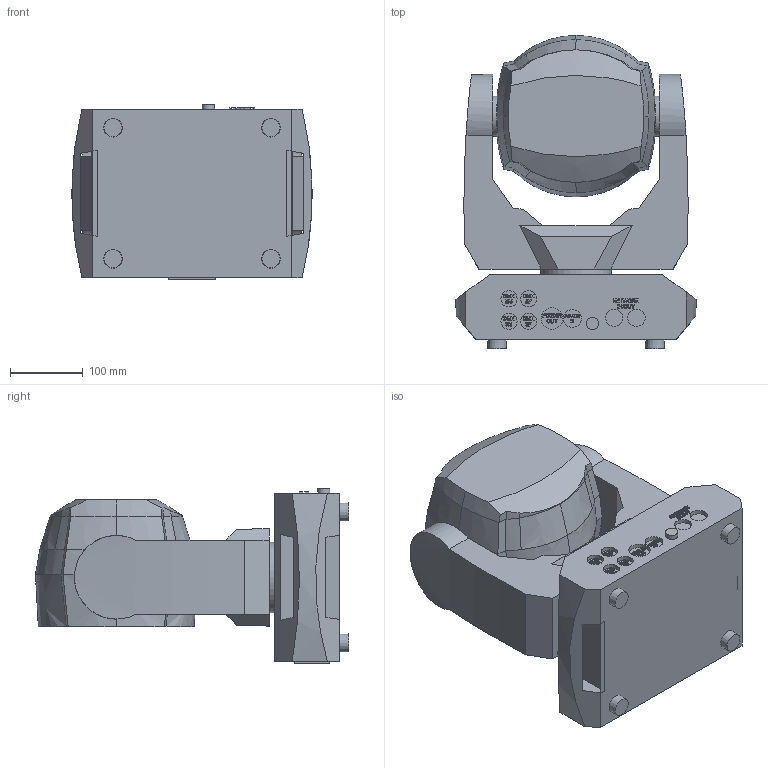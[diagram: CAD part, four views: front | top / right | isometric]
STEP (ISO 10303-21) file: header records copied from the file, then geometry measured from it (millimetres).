
FILE_DESCRIPTION(/* description */ (''),/* implementation_level */ '2;1');
FILE_NAME(/* name */ 'Maverick Force 2 BeamWash_0.step',/* time_stamp */ '2024-01-16T13:50:58-05:00',/* author */ ('dgooch'),/* organization */ (''),/* preprocessor_version */ 'ST-DEVELOPER v20',/* originating_system */ 'Autodesk Inventor 2024',/* authorisation */ '');
FILE_SCHEMA (('AUTOMOTIVE_DESIGN { 1 0 10303 214 3 1 1 }'));
Length unit declared in the file: millimetre
Products named in the file (4): Maverick Force 2 BeamWash; Head; Arms; Base
Assembly tree (3 placements, depth 2):
  Maverick Force 2 BeamWash
    Head
    Arms
    Base
Bounding box: 329.96 x 430.1 x 241.25 mm (x, y, z)
Volume: 15980180.8 mm3; surface area: 680326.4 mm2
Topology: 3 solids, 3 shells, 1008 faces, 2721 edges, 1800 vertices
Faces by surface type: plane 538, bspline 444, cylinder 22, cone 4
Full cylindrical faces by diameter (mm): 17 x1, 22.2 x4, 24 x2, 24.5 x1, 29.5 x1, 55 x4, 97 x2, 201.966 x1
Entity records: 36206 total; most frequent: CARTESIAN_POINT 13562, ORIENTED_EDGE 5442, DIRECTION 3113, EDGE_CURVE 2721, LINE 1827, VECTOR 1827, VERTEX_POINT 1800, EDGE_LOOP 1093
